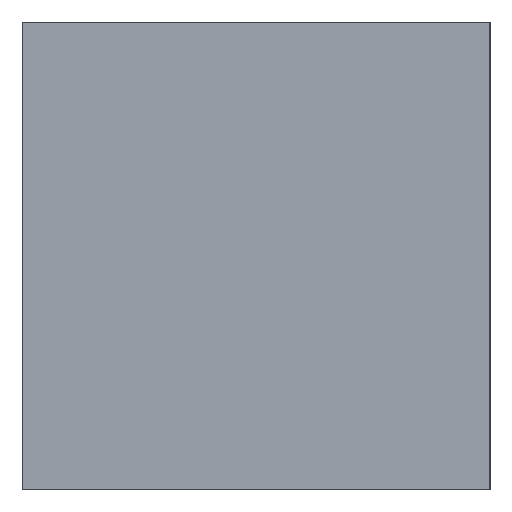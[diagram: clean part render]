
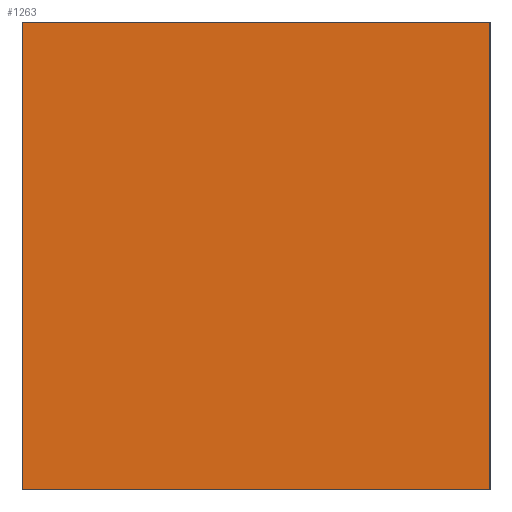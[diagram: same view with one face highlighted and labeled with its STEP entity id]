
A CAD part, left-side view. The second image highlights one B-rep face of the part: STEP entity #1263.
In plain terms, the highlighted planar face has unit normal (-1, 0, 0).
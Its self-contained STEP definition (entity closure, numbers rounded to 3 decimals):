
#115=PLANE('',#1378);
#188=FACE_OUTER_BOUND('',#274,.T.);
#274=EDGE_LOOP('',(#1129,#1130,#1131,#1132));
#358=LINE('',#4430,#462);
#376=LINE('',#4465,#480);
#377=LINE('',#4468,#481);
#378=LINE('',#4469,#482);
#462=VECTOR('',#1637,10.);
#480=VECTOR('',#1669,10.);
#481=VECTOR('',#1672,10.);
#482=VECTOR('',#1673,10.);
#619=VERTEX_POINT('',#4427);
#620=VERTEX_POINT('',#4429);
#630=VERTEX_POINT('',#4463);
#631=VERTEX_POINT('',#4467);
#783=EDGE_CURVE('',#619,#620,#358,.T.);
#801=EDGE_CURVE('',#619,#630,#376,.T.);
#802=EDGE_CURVE('',#631,#630,#377,.T.);
#803=EDGE_CURVE('',#620,#631,#378,.T.);
#1129=ORIENTED_EDGE('',*,*,#801,.T.);
#1130=ORIENTED_EDGE('',*,*,#802,.F.);
#1131=ORIENTED_EDGE('',*,*,#803,.F.);
#1132=ORIENTED_EDGE('',*,*,#783,.F.);
#1263=ADVANCED_FACE('',(#188),#115,.T.);
#1378=AXIS2_PLACEMENT_3D('',#4466,#1670,#1671);
#1637=DIRECTION('',(0.,1.,0.));
#1669=DIRECTION('',(0.,0.,1.));
#1670=DIRECTION('center_axis',(-1.,0.,0.));
#1671=DIRECTION('ref_axis',(0.,-1.,0.));
#1672=DIRECTION('',(0.,-1.,0.));
#1673=DIRECTION('',(0.,0.,1.));
#4427=CARTESIAN_POINT('',(-65.,-15.5,-15.5));
#4429=CARTESIAN_POINT('',(-65.,15.5,-15.5));
#4430=CARTESIAN_POINT('',(-65.,-15.5,-15.5));
#4463=CARTESIAN_POINT('',(-65.,-15.5,15.5));
#4465=CARTESIAN_POINT('',(-65.,-15.5,0.));
#4466=CARTESIAN_POINT('Origin',(-65.,15.5,0.));
#4467=CARTESIAN_POINT('',(-65.,15.5,15.5));
#4468=CARTESIAN_POINT('',(-65.,-15.5,15.5));
#4469=CARTESIAN_POINT('',(-65.,15.5,0.));
